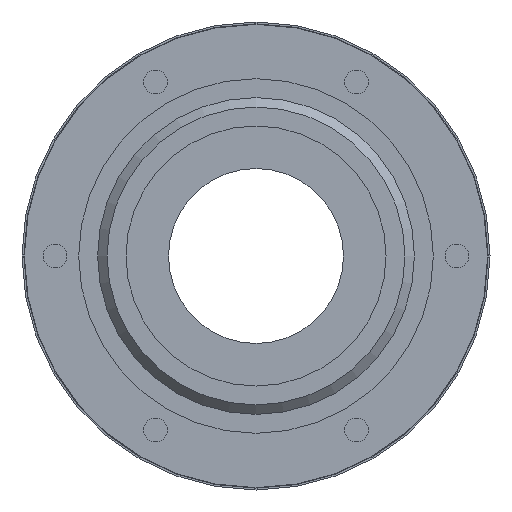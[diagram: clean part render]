
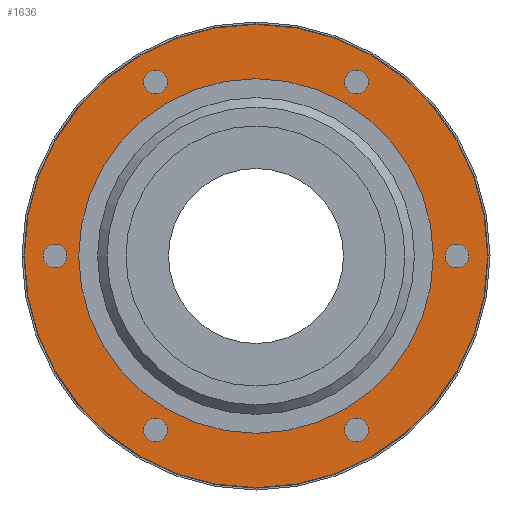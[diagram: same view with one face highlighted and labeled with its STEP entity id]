
A CAD part, left-side view. The second image highlights one B-rep face of the part: STEP entity #1636.
In plain terms, the highlighted planar face has unit normal (-1, 0, 0).
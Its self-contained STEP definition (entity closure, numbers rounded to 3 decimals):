
#23=FACE_BOUND('',#328,.T.);
#24=FACE_BOUND('',#329,.T.);
#25=FACE_BOUND('',#330,.T.);
#26=FACE_BOUND('',#331,.T.);
#27=FACE_BOUND('',#332,.T.);
#28=FACE_BOUND('',#333,.T.);
#29=FACE_BOUND('',#334,.T.);
#110=PLANE('',#1835);
#219=FACE_OUTER_BOUND('',#327,.T.);
#327=EDGE_LOOP('',(#1476));
#328=EDGE_LOOP('',(#1477));
#329=EDGE_LOOP('',(#1478));
#330=EDGE_LOOP('',(#1479));
#331=EDGE_LOOP('',(#1480));
#332=EDGE_LOOP('',(#1481));
#333=EDGE_LOOP('',(#1482));
#334=EDGE_LOOP('',(#1483));
#654=CIRCLE('',#1683,49.);
#655=CIRCLE('',#1685,37.5);
#662=CIRCLE('',#1696,2.5);
#664=CIRCLE('',#1699,2.5);
#666=CIRCLE('',#1702,2.5);
#668=CIRCLE('',#1705,2.5);
#670=CIRCLE('',#1708,2.5);
#672=CIRCLE('',#1711,2.5);
#732=VERTEX_POINT('',#2378);
#733=VERTEX_POINT('',#2382);
#740=VERTEX_POINT('',#2404);
#742=VERTEX_POINT('',#2410);
#744=VERTEX_POINT('',#2416);
#746=VERTEX_POINT('',#2422);
#748=VERTEX_POINT('',#2428);
#750=VERTEX_POINT('',#2434);
#883=EDGE_CURVE('',#732,#732,#654,.T.);
#884=EDGE_CURVE('',#733,#733,#655,.T.);
#895=EDGE_CURVE('',#740,#740,#662,.T.);
#898=EDGE_CURVE('',#742,#742,#664,.T.);
#901=EDGE_CURVE('',#744,#744,#666,.T.);
#904=EDGE_CURVE('',#746,#746,#668,.T.);
#907=EDGE_CURVE('',#748,#748,#670,.T.);
#910=EDGE_CURVE('',#750,#750,#672,.T.);
#1476=ORIENTED_EDGE('',*,*,#883,.F.);
#1477=ORIENTED_EDGE('',*,*,#884,.T.);
#1478=ORIENTED_EDGE('',*,*,#910,.T.);
#1479=ORIENTED_EDGE('',*,*,#907,.T.);
#1480=ORIENTED_EDGE('',*,*,#904,.T.);
#1481=ORIENTED_EDGE('',*,*,#901,.T.);
#1482=ORIENTED_EDGE('',*,*,#898,.T.);
#1483=ORIENTED_EDGE('',*,*,#895,.T.);
#1636=ADVANCED_FACE('',(#219,#23,#24,#25,#26,#27,#28,#29),#110,.T.);
#1683=AXIS2_PLACEMENT_3D('',#2380,#1890,#1891);
#1685=AXIS2_PLACEMENT_3D('',#2383,#1894,#1895);
#1696=AXIS2_PLACEMENT_3D('',#2405,#1920,#1921);
#1699=AXIS2_PLACEMENT_3D('',#2411,#1927,#1928);
#1702=AXIS2_PLACEMENT_3D('',#2417,#1934,#1935);
#1705=AXIS2_PLACEMENT_3D('',#2423,#1941,#1942);
#1708=AXIS2_PLACEMENT_3D('',#2429,#1948,#1949);
#1711=AXIS2_PLACEMENT_3D('',#2435,#1955,#1956);
#1835=AXIS2_PLACEMENT_3D('',#2795,#2326,#2327);
#1890=DIRECTION('center_axis',(1.,0.,0.));
#1891=DIRECTION('ref_axis',(0.,0.,-1.));
#1894=DIRECTION('center_axis',(1.,0.,0.));
#1895=DIRECTION('ref_axis',(0.,0.,-1.));
#1920=DIRECTION('center_axis',(1.,0.,0.));
#1921=DIRECTION('ref_axis',(0.,0.,-1.));
#1927=DIRECTION('center_axis',(1.,0.,0.));
#1928=DIRECTION('ref_axis',(0.,0.,-1.));
#1934=DIRECTION('center_axis',(1.,0.,0.));
#1935=DIRECTION('ref_axis',(0.,0.,-1.));
#1941=DIRECTION('center_axis',(1.,0.,0.));
#1942=DIRECTION('ref_axis',(0.,0.,-1.));
#1948=DIRECTION('center_axis',(1.,0.,0.));
#1949=DIRECTION('ref_axis',(0.,0.,-1.));
#1955=DIRECTION('center_axis',(1.,0.,0.));
#1956=DIRECTION('ref_axis',(0.,0.,-1.));
#2326=DIRECTION('center_axis',(-1.,0.,0.));
#2327=DIRECTION('ref_axis',(0.,0.,1.));
#2378=CARTESIAN_POINT('',(12.,0.,49.));
#2380=CARTESIAN_POINT('Origin',(12.,0.,0.));
#2382=CARTESIAN_POINT('',(12.,0.,37.5));
#2383=CARTESIAN_POINT('Origin',(12.,0.,0.));
#2404=CARTESIAN_POINT('',(12.,-42.5,2.5));
#2405=CARTESIAN_POINT('Origin',(12.,-42.5,0.));
#2410=CARTESIAN_POINT('',(12.,-21.25,-34.306));
#2411=CARTESIAN_POINT('Origin',(12.,-21.25,-36.806));
#2416=CARTESIAN_POINT('',(12.,21.25,-34.306));
#2417=CARTESIAN_POINT('Origin',(12.,21.25,-36.806));
#2422=CARTESIAN_POINT('',(12.,42.5,2.5));
#2423=CARTESIAN_POINT('Origin',(12.,42.5,0.));
#2428=CARTESIAN_POINT('',(12.,21.25,39.306));
#2429=CARTESIAN_POINT('Origin',(12.,21.25,36.806));
#2434=CARTESIAN_POINT('',(12.,-21.25,39.306));
#2435=CARTESIAN_POINT('Origin',(12.,-21.25,36.806));
#2795=CARTESIAN_POINT('Origin',(12.,0.,-43.25));
